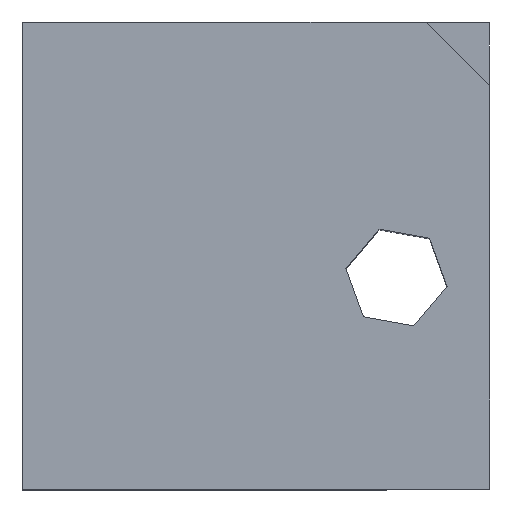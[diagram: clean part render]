
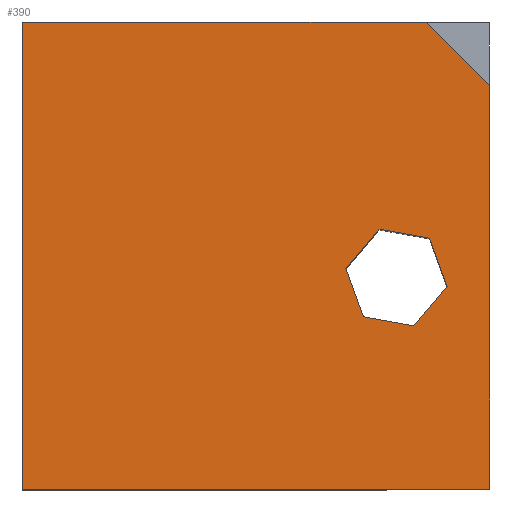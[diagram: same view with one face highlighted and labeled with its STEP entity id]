
A CAD part, top view. The second image highlights one B-rep face of the part: STEP entity #390.
In plain terms, the highlighted planar face has unit normal (0, 0, 1).
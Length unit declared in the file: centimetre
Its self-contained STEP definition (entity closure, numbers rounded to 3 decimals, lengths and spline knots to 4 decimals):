
#1 = ORIENTED_EDGE ( 'NONE', *, *, #1156, .F. ) ;
#23 = LINE ( 'NONE', #1182, #1552 ) ;
#29 = DIRECTION ( 'NONE',  ( 0., 1., 0. ) ) ;
#49 = EDGE_CURVE ( 'NONE', #793, #386, #977, .T. ) ;
#51 = ORIENTED_EDGE ( 'NONE', *, *, #558, .F. ) ;
#63 = CARTESIAN_POINT ( 'NONE',  ( 763.2659, 556.5556, 1000. ) ) ;
#136 = CARTESIAN_POINT ( 'NONE',  ( 1000., 0., 1000. ) ) ;
#147 = VERTEX_POINT ( 'NONE', #1650 ) ;
#154 = EDGE_CURVE ( 'NONE', #785, #1151, #1034, .T. ) ;
#167 = CARTESIAN_POINT ( 'NONE',  ( 1000., 864.3901, 1000. ) ) ;
#170 = CARTESIAN_POINT ( 'NONE',  ( 692.3968, 472.4292, 1000. ) ) ;
#182 = LINE ( 'NONE', #995, #962 ) ;
#194 = CARTESIAN_POINT ( 'NONE',  ( 908.9771, 433.8069, 1000. ) ) ;
#201 = VECTOR ( 'NONE', #1407, 100. ) ;
#207 = CARTESIAN_POINT ( 'NONE',  ( 0., 1000., 1000. ) ) ;
#214 = DIRECTION ( 'NONE',  ( 0., 0., 1. ) ) ;
#226 = VECTOR ( 'NONE', #598, 100. ) ;
#267 = CARTESIAN_POINT ( 'NONE',  ( 692.3968, 472.4292, 1000. ) ) ;
#281 = LINE ( 'NONE', #170, #826 ) ;
#325 = FACE_BOUND ( 'NONE', #1420, .T. ) ;
#339 = ORIENTED_EDGE ( 'NONE', *, *, #813, .F. ) ;
#341 = DIRECTION ( 'NONE',  ( 1., 0., 0. ) ) ;
#350 = ORIENTED_EDGE ( 'NONE', *, *, #154, .F. ) ;
#364 = CARTESIAN_POINT ( 'NONE',  ( 763.2659, 556.5556, 1000. ) ) ;
#369 = LINE ( 'NONE', #662, #848 ) ;
#386 = VERTEX_POINT ( 'NONE', #207 ) ;
#390 = ADVANCED_FACE ( 'NONE', ( #325, #980 ), #1236, .T. ) ;
#400 = LINE ( 'NONE', #431, #1356 ) ;
#417 = VECTOR ( 'NONE', #834, 100. ) ;
#424 = VERTEX_POINT ( 'NONE', #1145 ) ;
#431 = CARTESIAN_POINT ( 'NONE',  ( 1000., 1000., 1000. ) ) ;
#460 = ORIENTED_EDGE ( 'NONE', *, *, #730, .F. ) ;
#498 = CARTESIAN_POINT ( 'NONE',  ( 871.556, 537.2445, 1000. ) ) ;
#512 = VERTEX_POINT ( 'NONE', #267 ) ;
#531 = VECTOR ( 'NONE', #779, 100. ) ;
#534 = LINE ( 'NONE', #167, #912 ) ;
#551 = VERTEX_POINT ( 'NONE', #949 ) ;
#555 = VECTOR ( 'NONE', #1409, 100. ) ;
#558 = EDGE_CURVE ( 'NONE', #512, #1184, #281, .T. ) ;
#597 = ORIENTED_EDGE ( 'NONE', *, *, #1033, .F. ) ;
#598 = DIRECTION ( 'NONE',  ( -1., 0., 0. ) ) ;
#642 = EDGE_CURVE ( 'NONE', #386, #147, #23, .T. ) ;
#662 = CARTESIAN_POINT ( 'NONE',  ( 871.556, 537.2445, 1000. ) ) ;
#706 = CARTESIAN_POINT ( 'NONE',  ( 864.3901, 1000., 1000. ) ) ;
#730 = EDGE_CURVE ( 'NONE', #424, #785, #182, .T. ) ;
#759 = EDGE_CURVE ( 'NONE', #1184, #424, #1598, .T. ) ;
#766 = VERTEX_POINT ( 'NONE', #63 ) ;
#779 = DIRECTION ( 'NONE',  ( 1., 0., 0. ) ) ;
#785 = VERTEX_POINT ( 'NONE', #194 ) ;
#793 = VERTEX_POINT ( 'NONE', #706 ) ;
#813 = EDGE_CURVE ( 'NONE', #766, #512, #1101, .T. ) ;
#826 = VECTOR ( 'NONE', #1065, 100. ) ;
#834 = DIRECTION ( 'NONE',  ( 0.984, -0.176, 0. ) ) ;
#848 = VECTOR ( 'NONE', #1555, 100. ) ;
#868 = EDGE_CURVE ( 'NONE', #147, #1169, #1286, .T. ) ;
#912 = VECTOR ( 'NONE', #1075, 100. ) ;
#937 = ORIENTED_EDGE ( 'NONE', *, *, #49, .T. ) ;
#949 = CARTESIAN_POINT ( 'NONE',  ( 1000., 864.3901, 1000. ) ) ;
#962 = VECTOR ( 'NONE', #965, 100. ) ;
#965 = DIRECTION ( 'NONE',  ( 0.644, 0.765, 0. ) ) ;
#977 = LINE ( 'NONE', #1473, #226 ) ;
#980 = FACE_OUTER_BOUND ( 'NONE', #1434, .T. ) ;
#995 = CARTESIAN_POINT ( 'NONE',  ( 838.108, 349.6805, 1000. ) ) ;
#1033 = EDGE_CURVE ( 'NONE', #793, #551, #534, .T. ) ;
#1034 = LINE ( 'NONE', #1257, #201 ) ;
#1042 = EDGE_CURVE ( 'NONE', #1169, #551, #400, .T. ) ;
#1065 = DIRECTION ( 'NONE',  ( 0.34, -0.94, 0. ) ) ;
#1075 = DIRECTION ( 'NONE',  ( 0.707, -0.707, 0. ) ) ;
#1101 = LINE ( 'NONE', #364, #555 ) ;
#1109 = ORIENTED_EDGE ( 'NONE', *, *, #759, .F. ) ;
#1132 = CARTESIAN_POINT ( 'NONE',  ( 0., 0., 1000. ) ) ;
#1145 = CARTESIAN_POINT ( 'NONE',  ( 838.108, 349.6805, 1000. ) ) ;
#1151 = VERTEX_POINT ( 'NONE', #498 ) ;
#1156 = EDGE_CURVE ( 'NONE', #1151, #766, #369, .T. ) ;
#1165 = CARTESIAN_POINT ( 'NONE',  ( 729.8179, 368.9916, 1000. ) ) ;
#1169 = VERTEX_POINT ( 'NONE', #136 ) ;
#1171 = ORIENTED_EDGE ( 'NONE', *, *, #1042, .T. ) ;
#1182 = CARTESIAN_POINT ( 'NONE',  ( 0., 1000., 1000. ) ) ;
#1184 = VERTEX_POINT ( 'NONE', #1165 ) ;
#1196 = DIRECTION ( 'NONE',  ( 0., -1., 0. ) ) ;
#1236 = PLANE ( 'NONE',  #1489 ) ;
#1244 = ORIENTED_EDGE ( 'NONE', *, *, #642, .T. ) ;
#1257 = CARTESIAN_POINT ( 'NONE',  ( 908.9771, 433.8069, 1000. ) ) ;
#1286 = LINE ( 'NONE', #1132, #531 ) ;
#1356 = VECTOR ( 'NONE', #29, 100. ) ;
#1365 = CARTESIAN_POINT ( 'NONE',  ( 0., 0., 1000. ) ) ;
#1407 = DIRECTION ( 'NONE',  ( -0.34, 0.94, 0. ) ) ;
#1409 = DIRECTION ( 'NONE',  ( -0.644, -0.765, 0. ) ) ;
#1420 = EDGE_LOOP ( 'NONE', ( #350, #460, #1109, #51, #339, #1 ) ) ;
#1434 = EDGE_LOOP ( 'NONE', ( #597, #937, #1244, #1565, #1171 ) ) ;
#1473 = CARTESIAN_POINT ( 'NONE',  ( 0., 1000., 1000. ) ) ;
#1489 = AXIS2_PLACEMENT_3D ( 'NONE', #1365, #214, #341 ) ;
#1552 = VECTOR ( 'NONE', #1196, 100. ) ;
#1555 = DIRECTION ( 'NONE',  ( -0.984, 0.176, 0. ) ) ;
#1565 = ORIENTED_EDGE ( 'NONE', *, *, #868, .T. ) ;
#1598 = LINE ( 'NONE', #1623, #417 ) ;
#1623 = CARTESIAN_POINT ( 'NONE',  ( 729.8179, 368.9916, 1000. ) ) ;
#1650 = CARTESIAN_POINT ( 'NONE',  ( 0., 0., 1000. ) ) ;
